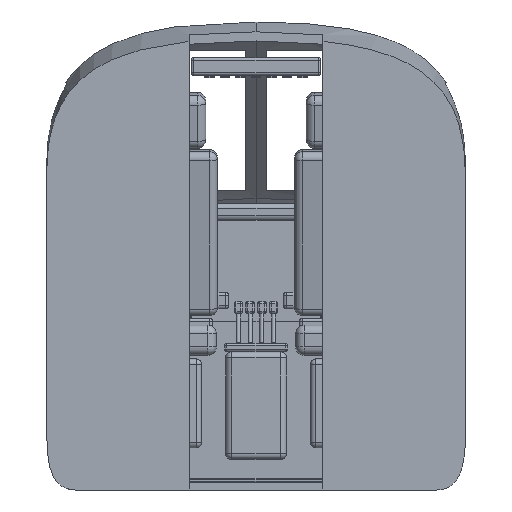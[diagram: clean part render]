
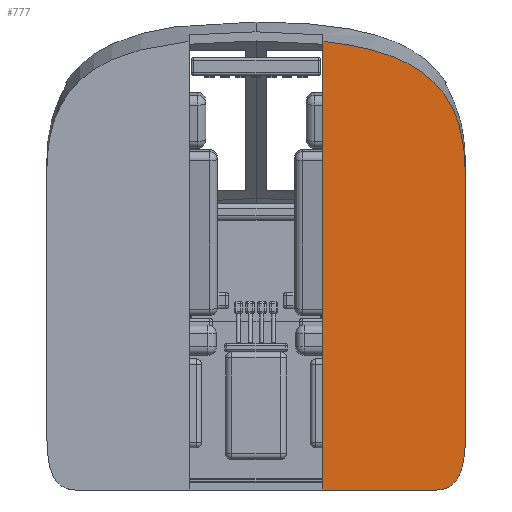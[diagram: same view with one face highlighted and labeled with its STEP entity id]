
A CAD part, front view. The second image highlights one B-rep face of the part: STEP entity #777.
In plain terms, the highlighted planar face has unit normal (0, -1, 0).
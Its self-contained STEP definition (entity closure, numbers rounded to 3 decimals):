
#309 = PLANE('',#310);
#310 = AXIS2_PLACEMENT_3D('',#311,#312,#313);
#311 = CARTESIAN_POINT('',(-731.,-665.,0.));
#312 = DIRECTION('',(0.,0.,1.));
#313 = DIRECTION('',(1.,0.,-0.));
#421 = VERTEX_POINT('',#422);
#422 = CARTESIAN_POINT('',(272.,-950.,0.));
#436 = PLANE('',#437);
#437 = AXIS2_PLACEMENT_3D('',#438,#439,#440);
#438 = CARTESIAN_POINT('',(272.,-1083.,0.));
#439 = DIRECTION('',(1.,0.,0.));
#440 = DIRECTION('',(0.,0.,1.));
#448 = EDGE_CURVE('',#421,#449,#451,.T.);
#449 = VERTEX_POINT('',#450);
#450 = CARTESIAN_POINT('',(731.,-950.,0.));
#451 = SURFACE_CURVE('',#452,(#456,#463),.PCURVE_S1.);
#452 = LINE('',#453,#454);
#453 = CARTESIAN_POINT('',(-731.,-950.,0.));
#454 = VECTOR('',#455,1.);
#455 = DIRECTION('',(1.,0.,0.));
#456 = PCURVE('',#309,#457);
#457 = DEFINITIONAL_REPRESENTATION('',(#458),#462);
#458 = LINE('',#459,#460);
#459 = CARTESIAN_POINT('',(0.,-285.));
#460 = VECTOR('',#461,1.);
#461 = DIRECTION('',(1.,0.));
#462 = ( GEOMETRIC_REPRESENTATION_CONTEXT(2) 
PARAMETRIC_REPRESENTATION_CONTEXT() REPRESENTATION_CONTEXT('2D SPACE',''
  ) );
#463 = PCURVE('',#464,#469);
#464 = PLANE('',#465);
#465 = AXIS2_PLACEMENT_3D('',#466,#467,#468);
#466 = CARTESIAN_POINT('',(-731.,-950.,0.));
#467 = DIRECTION('',(0.,-1.,0.));
#468 = DIRECTION('',(0.682,0.,0.731));
#469 = DEFINITIONAL_REPRESENTATION('',(#470),#474);
#470 = LINE('',#471,#472);
#471 = CARTESIAN_POINT('',(0.,0.));
#472 = VECTOR('',#473,1.);
#473 = DIRECTION('',(0.682,-0.731));
#474 = ( GEOMETRIC_REPRESENTATION_CONTEXT(2) 
PARAMETRIC_REPRESENTATION_CONTEXT() REPRESENTATION_CONTEXT('2D SPACE',''
  ) );
#490 = B_SPLINE_SURFACE_WITH_KNOTS('',3,1,(
    (#491,#492)
    ,(#493,#494)
    ,(#495,#496)
    ,(#497,#498)),.UNSPECIFIED.,.F.,.F.,.F.,(4,4),(2,2),(0.,1.),(0.,1.),
  .PIECEWISE_BEZIER_KNOTS.);
#491 = CARTESIAN_POINT('',(731.,-950.,0.));
#492 = CARTESIAN_POINT('',(731.,-665.,0.));
#493 = CARTESIAN_POINT('',(816.,-950.,0.));
#494 = CARTESIAN_POINT('',(816.,-665.,0.));
#495 = CARTESIAN_POINT('',(850.,-950.,73.34));
#496 = CARTESIAN_POINT('',(850.,-665.,76.));
#497 = CARTESIAN_POINT('',(850.,-950.,220.02));
#498 = CARTESIAN_POINT('',(850.,-665.,228.));
#703 = EDGE_CURVE('',#449,#704,#706,.T.);
#704 = VERTEX_POINT('',#705);
#705 = CARTESIAN_POINT('',(850.,-950.,220.02));
#706 = SURFACE_CURVE('',#707,(#712,#719),.PCURVE_S1.);
#707 = B_SPLINE_CURVE_WITH_KNOTS('',3,(#708,#709,#710,#711),
  .UNSPECIFIED.,.F.,.F.,(4,4),(0.,1.),.PIECEWISE_BEZIER_KNOTS.);
#708 = CARTESIAN_POINT('',(731.,-950.,0.));
#709 = CARTESIAN_POINT('',(816.,-950.,0.));
#710 = CARTESIAN_POINT('',(850.,-950.,73.34));
#711 = CARTESIAN_POINT('',(850.,-950.,220.02));
#712 = PCURVE('',#490,#713);
#713 = DEFINITIONAL_REPRESENTATION('',(#714),#718);
#714 = LINE('',#715,#716);
#715 = CARTESIAN_POINT('',(0.,0.));
#716 = VECTOR('',#717,1.);
#717 = DIRECTION('',(1.,0.));
#718 = ( GEOMETRIC_REPRESENTATION_CONTEXT(2) 
PARAMETRIC_REPRESENTATION_CONTEXT() REPRESENTATION_CONTEXT('2D SPACE',''
  ) );
#719 = PCURVE('',#464,#720);
#720 = DEFINITIONAL_REPRESENTATION('',(#721),#726);
#721 = B_SPLINE_CURVE_WITH_KNOTS('',3,(#722,#723,#724,#725),
  .UNSPECIFIED.,.F.,.F.,(4,4),(0.,1.),.PIECEWISE_BEZIER_KNOTS.);
#722 = CARTESIAN_POINT('',(996.951,-1069.361));
#723 = CARTESIAN_POINT('',(1054.914,-1131.533));
#724 = CARTESIAN_POINT('',(1131.742,-1106.39));
#725 = CARTESIAN_POINT('',(1239.029,-1006.368));
#726 = ( GEOMETRIC_REPRESENTATION_CONTEXT(2) 
PARAMETRIC_REPRESENTATION_CONTEXT() REPRESENTATION_CONTEXT('2D SPACE',''
  ) );
#743 = B_SPLINE_SURFACE_WITH_KNOTS('',1,1,(
    (#744,#745)
    ,(#746,#747
    )),.UNSPECIFIED.,.F.,.F.,.F.,(2,2),(2,2),(0.,1102.),(0.,1.),
  .PIECEWISE_BEZIER_KNOTS.);
#744 = CARTESIAN_POINT('',(850.,-950.,220.02));
#745 = CARTESIAN_POINT('',(850.,-665.,228.));
#746 = CARTESIAN_POINT('',(850.,-950.,1283.45));
#747 = CARTESIAN_POINT('',(850.,-665.,1330.));
#777 = ADVANCED_FACE('',(#778),#464,.T.);
#778 = FACE_BOUND('',#779,.T.);
#779 = EDGE_LOOP('',(#780,#801,#802,#803,#825));
#780 = ORIENTED_EDGE('',*,*,#781,.F.);
#781 = EDGE_CURVE('',#421,#782,#784,.T.);
#782 = VERTEX_POINT('',#783);
#783 = CARTESIAN_POINT('',(272.,-950.,1821.13));
#784 = SURFACE_CURVE('',#785,(#789,#795),.PCURVE_S1.);
#785 = LINE('',#786,#787);
#786 = CARTESIAN_POINT('',(272.,-950.,0.));
#787 = VECTOR('',#788,1.);
#788 = DIRECTION('',(-0.,0.,1.));
#789 = PCURVE('',#464,#790);
#790 = DEFINITIONAL_REPRESENTATION('',(#791),#794);
#791 = B_SPLINE_CURVE_WITH_KNOTS('',1,(#792,#793),.UNSPECIFIED.,.F.,.F.,
  (2,2),(0.,1964.),.PIECEWISE_BEZIER_KNOTS.);
#792 = CARTESIAN_POINT('',(683.955,-733.631));
#793 = CARTESIAN_POINT('',(2120.497,605.639));
#794 = ( GEOMETRIC_REPRESENTATION_CONTEXT(2) 
PARAMETRIC_REPRESENTATION_CONTEXT() REPRESENTATION_CONTEXT('2D SPACE',''
  ) );
#795 = PCURVE('',#436,#796);
#796 = DEFINITIONAL_REPRESENTATION('',(#797),#800);
#797 = B_SPLINE_CURVE_WITH_KNOTS('',1,(#798,#799),.UNSPECIFIED.,.F.,.F.,
  (2,2),(0.,1964.),.PIECEWISE_BEZIER_KNOTS.);
#798 = CARTESIAN_POINT('',(0.,-133.));
#799 = CARTESIAN_POINT('',(1964.,-133.));
#800 = ( GEOMETRIC_REPRESENTATION_CONTEXT(2) 
PARAMETRIC_REPRESENTATION_CONTEXT() REPRESENTATION_CONTEXT('2D SPACE',''
  ) );
#801 = ORIENTED_EDGE('',*,*,#448,.T.);
#802 = ORIENTED_EDGE('',*,*,#703,.T.);
#803 = ORIENTED_EDGE('',*,*,#804,.T.);
#804 = EDGE_CURVE('',#704,#805,#807,.T.);
#805 = VERTEX_POINT('',#806);
#806 = CARTESIAN_POINT('',(850.,-950.,1283.45));
#807 = SURFACE_CURVE('',#808,(#812,#819),.PCURVE_S1.);
#808 = LINE('',#809,#810);
#809 = CARTESIAN_POINT('',(850.,-950.,220.02));
#810 = VECTOR('',#811,1.);
#811 = DIRECTION('',(0.,0.,1.));
#812 = PCURVE('',#464,#813);
#813 = DEFINITIONAL_REPRESENTATION('',(#814),#818);
#814 = LINE('',#815,#816);
#815 = CARTESIAN_POINT('',(1239.029,-1006.368));
#816 = VECTOR('',#817,1.);
#817 = DIRECTION('',(0.731,0.682));
#818 = ( GEOMETRIC_REPRESENTATION_CONTEXT(2) 
PARAMETRIC_REPRESENTATION_CONTEXT() REPRESENTATION_CONTEXT('2D SPACE',''
  ) );
#819 = PCURVE('',#743,#820);
#820 = DEFINITIONAL_REPRESENTATION('',(#821),#824);
#821 = B_SPLINE_CURVE_WITH_KNOTS('',1,(#822,#823),.UNSPECIFIED.,.F.,.F.,
  (2,2),(0.,1063.43),.PIECEWISE_BEZIER_KNOTS.);
#822 = CARTESIAN_POINT('',(0.,0.));
#823 = CARTESIAN_POINT('',(1102.,0.));
#824 = ( GEOMETRIC_REPRESENTATION_CONTEXT(2) 
PARAMETRIC_REPRESENTATION_CONTEXT() REPRESENTATION_CONTEXT('2D SPACE',''
  ) );
#825 = ORIENTED_EDGE('',*,*,#826,.T.);
#826 = EDGE_CURVE('',#805,#782,#827,.T.);
#827 = SURFACE_CURVE('',#828,(#833,#841),.PCURVE_S1.);
#828 = B_SPLINE_CURVE_WITH_KNOTS('',3,(#829,#830,#831,#832),
  .UNSPECIFIED.,.F.,.F.,(4,4),(0.,1.),.PIECEWISE_BEZIER_KNOTS.);
#829 = CARTESIAN_POINT('',(850.,-950.,1283.45));
#830 = CARTESIAN_POINT('',(850.,-950.,1686.82));
#831 = CARTESIAN_POINT('',(612.,-950.,1833.5));
#832 = CARTESIAN_POINT('',(0.,-950.,1833.5));
#833 = PCURVE('',#464,#834);
#834 = DEFINITIONAL_REPRESENTATION('',(#835),#840);
#835 = B_SPLINE_CURVE_WITH_KNOTS('',3,(#836,#837,#838,#839),
  .UNSPECIFIED.,.F.,.F.,(4,4),(0.,1.),.PIECEWISE_BEZIER_KNOTS.);
#836 = CARTESIAN_POINT('',(2016.861,-281.205));
#837 = CARTESIAN_POINT('',(2311.901,-6.144));
#838 = CARTESIAN_POINT('',(2256.893,267.961));
#839 = CARTESIAN_POINT('',(1839.565,715.6));
#840 = ( GEOMETRIC_REPRESENTATION_CONTEXT(2) 
PARAMETRIC_REPRESENTATION_CONTEXT() REPRESENTATION_CONTEXT('2D SPACE',''
  ) );
#841 = PCURVE('',#842,#851);
#842 = B_SPLINE_SURFACE_WITH_KNOTS('',3,1,(
    (#843,#844)
    ,(#845,#846)
    ,(#847,#848)
    ,(#849,#850)),.UNSPECIFIED.,.F.,.F.,.F.,(4,4),(2,2),(0.,1.),(0.,1.),
  .PIECEWISE_BEZIER_KNOTS.);
#843 = CARTESIAN_POINT('',(850.,-950.,1283.45));
#844 = CARTESIAN_POINT('',(850.,-665.,1330.));
#845 = CARTESIAN_POINT('',(850.,-950.,1686.82));
#846 = CARTESIAN_POINT('',(850.,-665.,1748.));
#847 = CARTESIAN_POINT('',(612.,-950.,1833.5));
#848 = CARTESIAN_POINT('',(612.,-665.,1900.));
#849 = CARTESIAN_POINT('',(0.,-950.,1833.5));
#850 = CARTESIAN_POINT('',(0.,-665.,1900.));
#851 = DEFINITIONAL_REPRESENTATION('',(#852),#856);
#852 = LINE('',#853,#854);
#853 = CARTESIAN_POINT('',(0.,0.));
#854 = VECTOR('',#855,1.);
#855 = DIRECTION('',(1.,0.));
#856 = ( GEOMETRIC_REPRESENTATION_CONTEXT(2) 
PARAMETRIC_REPRESENTATION_CONTEXT() REPRESENTATION_CONTEXT('2D SPACE',''
  ) );
